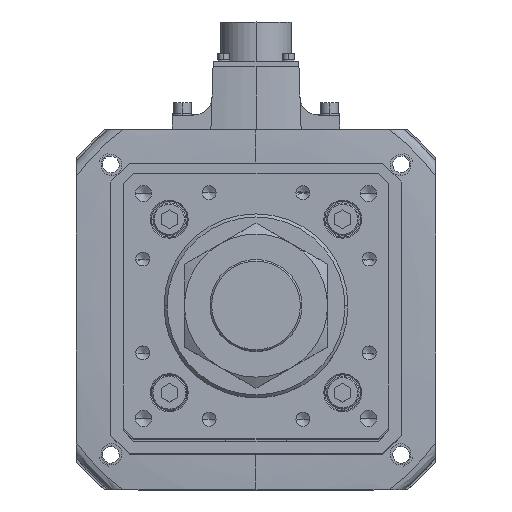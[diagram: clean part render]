
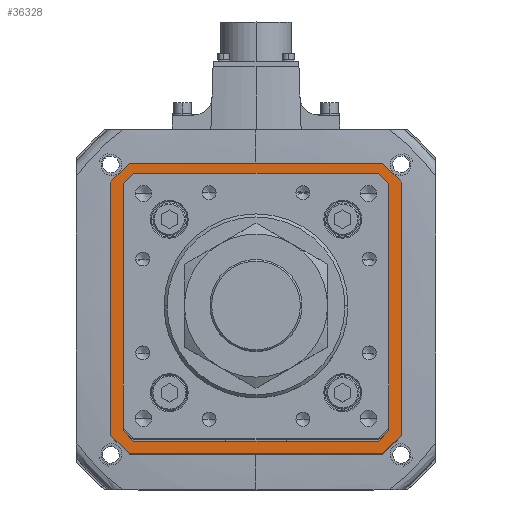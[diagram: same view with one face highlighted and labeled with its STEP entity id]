
A CAD part, top view. The second image highlights one B-rep face of the part: STEP entity #36328.
In plain terms, the highlighted planar face has unit normal (0, 0, 1).
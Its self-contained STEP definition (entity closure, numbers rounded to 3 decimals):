
#584 = ORIENTED_EDGE ( 'NONE', *, *, #19339, .T. ) ;
#617 = VERTEX_POINT ( 'NONE', #44027 ) ;
#930 = LINE ( 'NONE', #54587, #35671 ) ;
#951 = DIRECTION ( 'NONE',  ( 0., 0., 1. ) ) ;
#989 = VERTEX_POINT ( 'NONE', #31808 ) ;
#1065 = LINE ( 'NONE', #3716, #45141 ) ;
#1428 = LINE ( 'NONE', #51431, #42155 ) ;
#2000 = VERTEX_POINT ( 'NONE', #14508 ) ;
#2007 = FACE_OUTER_BOUND ( 'NONE', #14388, .T. ) ;
#2112 = CARTESIAN_POINT ( 'NONE',  ( -63., -58.793, -142. ) ) ;
#2193 = CARTESIAN_POINT ( 'NONE',  ( -63., 0., -142. ) ) ;
#2297 = LINE ( 'NONE', #33045, #53687 ) ;
#3277 = ORIENTED_EDGE ( 'NONE', *, *, #32504, .T. ) ;
#3716 = CARTESIAN_POINT ( 'NONE',  ( 62., -71., -142. ) ) ;
#3767 = CARTESIAN_POINT ( 'NONE',  ( -62., -71., -142. ) ) ;
#5585 = ORIENTED_EDGE ( 'NONE', *, *, #47588, .F. ) ;
#6069 = VECTOR ( 'NONE', #42962, 1000. ) ;
#6358 = DIRECTION ( 'NONE',  ( 0.707, 0.707, 0. ) ) ;
#6799 = LINE ( 'NONE', #53805, #16868 ) ;
#7592 = LINE ( 'NONE', #32150, #34338 ) ;
#8445 = EDGE_CURVE ( 'NONE', #2000, #32440, #14988, .T. ) ;
#8602 = LINE ( 'NONE', #38712, #11998 ) ;
#8708 = EDGE_CURVE ( 'NONE', #32440, #32315, #2297, .T. ) ;
#8764 = LINE ( 'NONE', #17793, #6069 ) ;
#8800 = CARTESIAN_POINT ( 'NONE',  ( -71., 62., -142. ) ) ;
#10586 = EDGE_CURVE ( 'NONE', #41543, #26734, #8764, .T. ) ;
#11120 = CARTESIAN_POINT ( 'NONE',  ( 58.793, -63., -142. ) ) ;
#11190 = CARTESIAN_POINT ( 'NONE',  ( 62., 71., -142. ) ) ;
#11319 = VERTEX_POINT ( 'NONE', #46966 ) ;
#11371 = ORIENTED_EDGE ( 'NONE', *, *, #26966, .T. ) ;
#11562 = DIRECTION ( 'NONE',  ( 0., -1., 0. ) ) ;
#11668 = VECTOR ( 'NONE', #52598, 1000. ) ;
#11816 = CARTESIAN_POINT ( 'NONE',  ( 63., 58.793, -142. ) ) ;
#11998 = VECTOR ( 'NONE', #43208, 1000. ) ;
#12173 = CARTESIAN_POINT ( 'NONE',  ( 0., -63., -142. ) ) ;
#13029 = CARTESIAN_POINT ( 'NONE',  ( -71., 62., -142. ) ) ;
#13468 = DIRECTION ( 'NONE',  ( 0., 1., 0. ) ) ;
#13524 = AXIS2_PLACEMENT_3D ( 'NONE', #52047, #951, #38988 ) ;
#13863 = LINE ( 'NONE', #27522, #25924 ) ;
#14388 = EDGE_LOOP ( 'NONE', ( #25482, #14902, #50052, #35008, #5585, #37065, #22828, #49481 ) ) ;
#14508 = CARTESIAN_POINT ( 'NONE',  ( 62., 71., -142. ) ) ;
#14735 = EDGE_CURVE ( 'NONE', #32315, #11319, #1428, .T. ) ;
#14902 = ORIENTED_EDGE ( 'NONE', *, *, #29969, .F. ) ;
#14988 = LINE ( 'NONE', #52237, #11668 ) ;
#15067 = DIRECTION ( 'NONE',  ( 0., 1., 0. ) ) ;
#15131 = LINE ( 'NONE', #11190, #50519 ) ;
#16862 = DIRECTION ( 'NONE',  ( -1., 0., 0. ) ) ;
#16868 = VECTOR ( 'NONE', #19151, 1000. ) ;
#17016 = CARTESIAN_POINT ( 'NONE',  ( -58.793, -63., -142. ) ) ;
#17653 = VERTEX_POINT ( 'NONE', #11120 ) ;
#17793 = CARTESIAN_POINT ( 'NONE',  ( 63., 0., -142. ) ) ;
#18512 = EDGE_CURVE ( 'NONE', #17653, #26537, #50580, .T. ) ;
#19151 = DIRECTION ( 'NONE',  ( -0.707, -0.707, 0. ) ) ;
#19339 = EDGE_CURVE ( 'NONE', #33651, #989, #46498, .T. ) ;
#20106 = VERTEX_POINT ( 'NONE', #50601 ) ;
#20497 = VECTOR ( 'NONE', #15067, 1000. ) ;
#20546 = VECTOR ( 'NONE', #16862, 1000. ) ;
#20791 = CARTESIAN_POINT ( 'NONE',  ( 58.793, 63., -142. ) ) ;
#21440 = DIRECTION ( 'NONE',  ( -0.707, -0.707, 0. ) ) ;
#22828 = ORIENTED_EDGE ( 'NONE', *, *, #8708, .F. ) ;
#24091 = CARTESIAN_POINT ( 'NONE',  ( -60.896, 60.896, -142. ) ) ;
#24299 = ORIENTED_EDGE ( 'NONE', *, *, #28851, .T. ) ;
#25482 = ORIENTED_EDGE ( 'NONE', *, *, #39865, .F. ) ;
#25924 = VECTOR ( 'NONE', #6358, 1000. ) ;
#26537 = VERTEX_POINT ( 'NONE', #17016 ) ;
#26734 = VERTEX_POINT ( 'NONE', #40605 ) ;
#26966 = EDGE_CURVE ( 'NONE', #26537, #33651, #930, .T. ) ;
#26979 = CARTESIAN_POINT ( 'NONE',  ( 71., -62., -142. ) ) ;
#27522 = CARTESIAN_POINT ( 'NONE',  ( -62., 71., -142. ) ) ;
#28851 = EDGE_CURVE ( 'NONE', #33920, #41543, #8602, .T. ) ;
#29121 = DIRECTION ( 'NONE',  ( -0.707, 0.707, 0. ) ) ;
#29544 = EDGE_CURVE ( 'NONE', #40016, #48579, #44588, .T. ) ;
#29969 = EDGE_CURVE ( 'NONE', #48579, #20106, #13863, .T. ) ;
#31808 = CARTESIAN_POINT ( 'NONE',  ( -63., 58.793, -142. ) ) ;
#32150 = CARTESIAN_POINT ( 'NONE',  ( 0., 63., -142. ) ) ;
#32315 = VERTEX_POINT ( 'NONE', #26979 ) ;
#32440 = VERTEX_POINT ( 'NONE', #36586 ) ;
#32504 = EDGE_CURVE ( 'NONE', #44814, #33920, #7592, .T. ) ;
#33045 = CARTESIAN_POINT ( 'NONE',  ( 71., 62., -142. ) ) ;
#33651 = VERTEX_POINT ( 'NONE', #2112 ) ;
#33895 = ORIENTED_EDGE ( 'NONE', *, *, #10586, .T. ) ;
#33920 = VERTEX_POINT ( 'NONE', #20791 ) ;
#34338 = VECTOR ( 'NONE', #49862, 1000. ) ;
#34512 = EDGE_CURVE ( 'NONE', #26734, #17653, #6799, .T. ) ;
#34533 = VECTOR ( 'NONE', #53861, 1000. ) ;
#34738 = PLANE ( 'NONE',  #13524 ) ;
#34890 = VECTOR ( 'NONE', #55056, 1000. ) ;
#35008 = ORIENTED_EDGE ( 'NONE', *, *, #44598, .F. ) ;
#35671 = VECTOR ( 'NONE', #29121, 1000. ) ;
#35749 = ORIENTED_EDGE ( 'NONE', *, *, #46561, .T. ) ;
#36278 = LINE ( 'NONE', #3767, #34890 ) ;
#36328 = ADVANCED_FACE ( 'NONE', ( #50718, #2007 ), #34738, .T. ) ;
#36586 = CARTESIAN_POINT ( 'NONE',  ( 71., 62., -142. ) ) ;
#37065 = ORIENTED_EDGE ( 'NONE', *, *, #14735, .F. ) ;
#37633 = EDGE_LOOP ( 'NONE', ( #33895, #45469, #45689, #11371, #584, #35749, #3277, #24299 ) ) ;
#38712 = CARTESIAN_POINT ( 'NONE',  ( 60.896, 60.896, -142. ) ) ;
#38988 = DIRECTION ( 'NONE',  ( 1., 0., 0. ) ) ;
#39865 = EDGE_CURVE ( 'NONE', #20106, #2000, #15131, .T. ) ;
#40016 = VERTEX_POINT ( 'NONE', #46281 ) ;
#40605 = CARTESIAN_POINT ( 'NONE',  ( 63., -58.793, -142. ) ) ;
#41034 = DIRECTION ( 'NONE',  ( 1., 0., 0. ) ) ;
#41261 = VECTOR ( 'NONE', #13468, 1000. ) ;
#41543 = VERTEX_POINT ( 'NONE', #11816 ) ;
#42155 = VECTOR ( 'NONE', #21440, 1000. ) ;
#42962 = DIRECTION ( 'NONE',  ( 0., -1., 0. ) ) ;
#43208 = DIRECTION ( 'NONE',  ( 0.707, -0.707, 0. ) ) ;
#44027 = CARTESIAN_POINT ( 'NONE',  ( -62., -71., -142. ) ) ;
#44588 = LINE ( 'NONE', #8800, #41261 ) ;
#44598 = EDGE_CURVE ( 'NONE', #617, #40016, #36278, .T. ) ;
#44814 = VERTEX_POINT ( 'NONE', #53142 ) ;
#45141 = VECTOR ( 'NONE', #50906, 1000. ) ;
#45469 = ORIENTED_EDGE ( 'NONE', *, *, #34512, .T. ) ;
#45689 = ORIENTED_EDGE ( 'NONE', *, *, #18512, .T. ) ;
#46281 = CARTESIAN_POINT ( 'NONE',  ( -71., -62., -142. ) ) ;
#46498 = LINE ( 'NONE', #2193, #20497 ) ;
#46561 = EDGE_CURVE ( 'NONE', #989, #44814, #49201, .T. ) ;
#46966 = CARTESIAN_POINT ( 'NONE',  ( 62., -71., -142. ) ) ;
#47588 = EDGE_CURVE ( 'NONE', #11319, #617, #1065, .T. ) ;
#48579 = VERTEX_POINT ( 'NONE', #13029 ) ;
#49201 = LINE ( 'NONE', #24091, #34533 ) ;
#49481 = ORIENTED_EDGE ( 'NONE', *, *, #8445, .F. ) ;
#49862 = DIRECTION ( 'NONE',  ( 1., 0., 0. ) ) ;
#50052 = ORIENTED_EDGE ( 'NONE', *, *, #29544, .F. ) ;
#50519 = VECTOR ( 'NONE', #41034, 1000. ) ;
#50580 = LINE ( 'NONE', #12173, #20546 ) ;
#50601 = CARTESIAN_POINT ( 'NONE',  ( -62., 71., -142. ) ) ;
#50718 = FACE_BOUND ( 'NONE', #37633, .T. ) ;
#50906 = DIRECTION ( 'NONE',  ( -1., 0., 0. ) ) ;
#51431 = CARTESIAN_POINT ( 'NONE',  ( 71., -62., -142. ) ) ;
#52047 = CARTESIAN_POINT ( 'NONE',  ( 0., 0., -142. ) ) ;
#52237 = CARTESIAN_POINT ( 'NONE',  ( 71., 62., -142. ) ) ;
#52598 = DIRECTION ( 'NONE',  ( 0.707, -0.707, 0. ) ) ;
#53142 = CARTESIAN_POINT ( 'NONE',  ( -58.793, 63., -142. ) ) ;
#53687 = VECTOR ( 'NONE', #11562, 1000. ) ;
#53805 = CARTESIAN_POINT ( 'NONE',  ( 60.896, -60.896, -142. ) ) ;
#53861 = DIRECTION ( 'NONE',  ( 0.707, 0.707, 0. ) ) ;
#54587 = CARTESIAN_POINT ( 'NONE',  ( -60.896, -60.896, -142. ) ) ;
#55056 = DIRECTION ( 'NONE',  ( -0.707, 0.707, 0. ) ) ;
